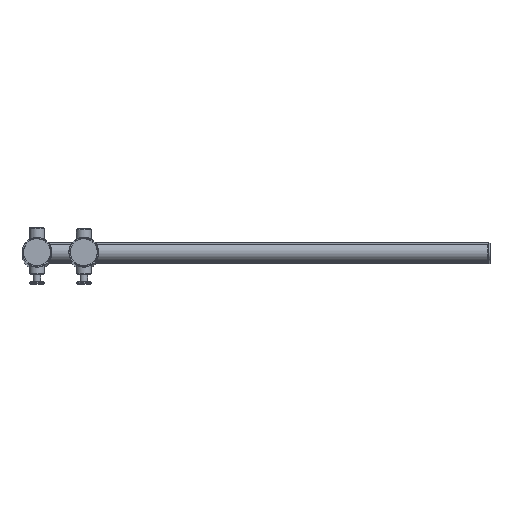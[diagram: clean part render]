
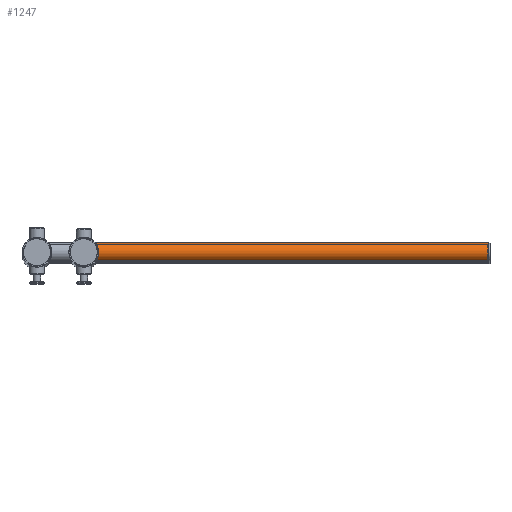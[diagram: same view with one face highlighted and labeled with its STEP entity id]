
A CAD part, top view. The second image highlights one B-rep face of the part: STEP entity #1247.
In plain terms, the highlighted cylindrical face has radius 10 mm (diameter 20 mm), a full revolution.
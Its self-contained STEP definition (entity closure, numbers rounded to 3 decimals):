
#402=ORIENTED_EDGE('',*,*,#558,.T.);
#403=ORIENTED_EDGE('',*,*,#559,.F.);
#558=EDGE_CURVE('',#662,#662,#724,.T.);
#559=EDGE_CURVE('',#663,#663,#725,.T.);
#662=VERTEX_POINT('',#3096);
#663=VERTEX_POINT('',#3098);
#724=CIRCLE('',#1618,10.);
#725=CIRCLE('',#1619,10.);
#874=EDGE_LOOP('',(#402));
#875=EDGE_LOOP('',(#403));
#1074=FACE_BOUND('',#874,.T.);
#1075=FACE_BOUND('',#875,.T.);
#1195=CYLINDRICAL_SURFACE('',#1617,10.);
#1247=ADVANCED_FACE('',(#1074,#1075),#1195,.T.);
#1617=AXIS2_PLACEMENT_3D('',#3094,#1854,#1855);
#1618=AXIS2_PLACEMENT_3D('',#3095,#1856,#1857);
#1619=AXIS2_PLACEMENT_3D('',#3097,#1858,#1859);
#1854=DIRECTION('',(-1.,0.,0.));
#1855=DIRECTION('',(0.,0.,1.));
#1856=DIRECTION('',(-1.,0.,0.));
#1857=DIRECTION('',(0.,1.,0.));
#1858=DIRECTION('',(-1.,0.,0.));
#1859=DIRECTION('',(0.,1.,0.));
#3094=CARTESIAN_POINT('',(211.25,0.,0.));
#3095=CARTESIAN_POINT('',(211.25,0.,0.));
#3096=CARTESIAN_POINT('',(211.25,10.,0.));
#3097=CARTESIAN_POINT('',(-211.25,0.,0.));
#3098=CARTESIAN_POINT('',(-211.25,10.,0.));
